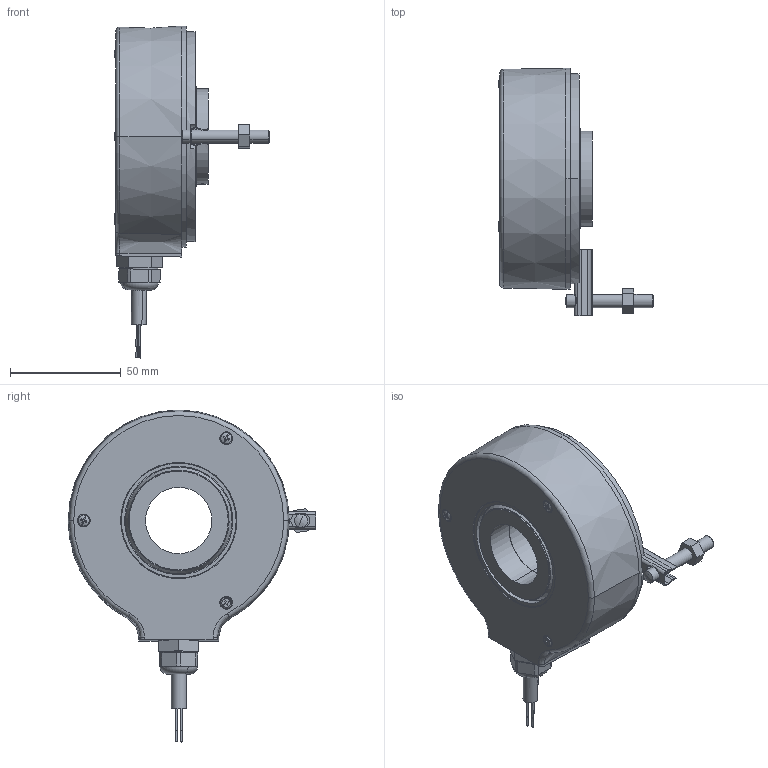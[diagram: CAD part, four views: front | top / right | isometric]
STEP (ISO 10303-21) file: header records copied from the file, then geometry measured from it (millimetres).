
FILE_DESCRIPTION (( 'STEP AP214' ), '1' );
FILE_NAME ('A020.3AX1.XXXX.STEP', '2008-07-22T08:11:45', ( 'admin' ), ( 'Fritz Kübler GmbH' ), 'SwSTEP 2.0', 'SolidWorks 2008', '' );
FILE_SCHEMA (( 'AUTOMOTIVE_DESIGN' ));
Length unit declared in the file: millimetre
Products named in the file (1): A020.3AX1.XXXX
Bounding box: 70.4 x 112 x 150.2 mm (x, y, z)
Surface area: 49490.6 mm2 (no closed solid volume)
Topology: 0 solids, 23 shells, 298 faces, 828 edges, 558 vertices
Faces by surface type: plane 135, cylinder 102, cone 29, torus 18, bspline 8, sphere 6
Entity records: 13452 total; most frequent: CARTESIAN_POINT 2367, DIRECTION 1747, ORIENTED_EDGE 1453, EDGE_CURVE 828, AXIS2_PLACEMENT_3D 676, VERTEX_POINT 558, VECTOR 395, LINE 395
